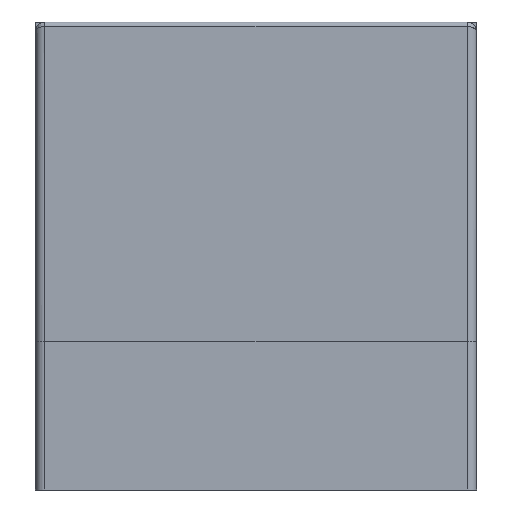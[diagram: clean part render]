
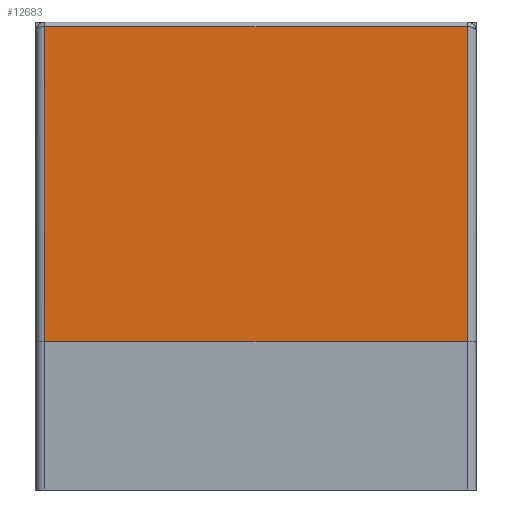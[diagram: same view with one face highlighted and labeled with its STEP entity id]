
A CAD part, front view. The second image highlights one B-rep face of the part: STEP entity #12683.
In plain terms, the highlighted planar face has unit normal (0, -1, 0).
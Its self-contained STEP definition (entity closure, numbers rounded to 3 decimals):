
#11=DIRECTION('',(1.,0.,0.));
#12=VECTOR('',#11,9.12);
#13=CARTESIAN_POINT('',(1.79,-4.05,-6.9));
#14=LINE('',#13,#12);
#1018=DIRECTION('',(-1.,0.,0.));
#1019=VECTOR('',#1018,9.12);
#1020=CARTESIAN_POINT('',(10.91,-4.05,
-0.1));
#1021=LINE('',#1020,#1019);
#1046=DIRECTION('',(0.,0.,-1.));
#1047=VECTOR('',#1046,6.8);
#1048=CARTESIAN_POINT('',(1.79,-4.05,
-0.1));
#1049=LINE('',#1048,#1047);
#5978=DIRECTION('',(0.,0.,1.));
#5979=VECTOR('',#5978,6.8);
#5980=CARTESIAN_POINT('',(10.91,-4.05,-6.9));
#5981=LINE('',#5980,#5979);
#9708=CARTESIAN_POINT('',(10.91,-4.05,-6.9));
#9709=CARTESIAN_POINT('',(10.91,-4.05,
-0.1));
#9710=VERTEX_POINT('',#9708);
#9711=VERTEX_POINT('',#9709);
#10245=CARTESIAN_POINT('',(1.79,-4.05,
-0.1));
#10246=CARTESIAN_POINT('',(1.79,-4.05,-6.9));
#10247=VERTEX_POINT('',#10245);
#10248=VERTEX_POINT('',#10246);
#12668=CARTESIAN_POINT('',(9.265,-4.05,-3.5));
#12669=DIRECTION('',(0.,1.,0.));
#12670=DIRECTION('',(1.,0.,0.));
#12671=AXIS2_PLACEMENT_3D('',#12668,#12669,#12670);
#12672=PLANE('',#12671);
#12674=ORIENTED_EDGE('',*,*,#12673,.F.);
#12676=ORIENTED_EDGE('',*,*,#12675,.F.);
#12678=ORIENTED_EDGE('',*,*,#12677,.F.);
#12680=ORIENTED_EDGE('',*,*,#12679,.F.);
#12681=EDGE_LOOP('',(#12674,#12676,#12678,#12680));
#12682=FACE_OUTER_BOUND('',#12681,.F.);
#12683=ADVANCED_FACE('',(#12682),#12672,.F.);
#12673=EDGE_CURVE('',#10248,#9710,#14,.T.);
#12675=EDGE_CURVE('',#10247,#10248,#1049,.T.);
#12677=EDGE_CURVE('',#9711,#10247,#1021,.T.);
#12679=EDGE_CURVE('',#9710,#9711,#5981,.T.);
